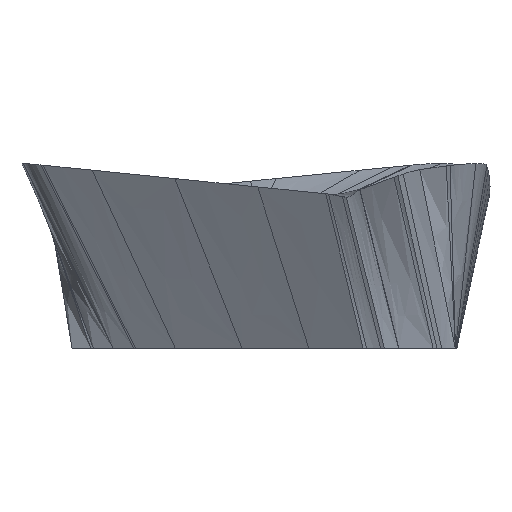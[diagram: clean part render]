
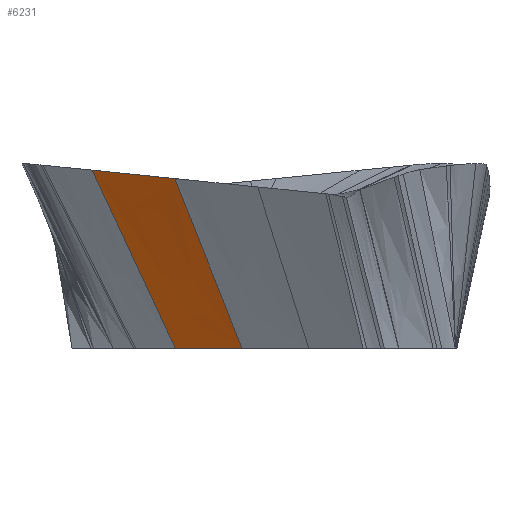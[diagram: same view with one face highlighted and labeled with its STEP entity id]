
A CAD part, left-side view. The second image highlights one B-rep face of the part: STEP entity #6231.
In plain terms, the highlighted free-form (B-spline) face has degree [5, 5] with [6, 12] control points.
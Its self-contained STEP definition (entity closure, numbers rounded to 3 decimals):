
#3836=CARTESIAN_POINT('Vertex',(-1.581,4.729,3.81)) ;
#3928=CARTESIAN_POINT('Control Point',(-2.633,2.966,3.631)) ;
#3929=CARTESIAN_POINT('Control Point',(-2.571,3.072,3.642)) ;
#3930=CARTESIAN_POINT('Control Point',(-2.508,3.177,3.653)) ;
#3931=CARTESIAN_POINT('Control Point',(-2.445,3.284,3.664)) ;
#3932=CARTESIAN_POINT('Control Point',(-2.311,3.51,3.686)) ;
#3933=CARTESIAN_POINT('Control Point',(-2.178,3.734,3.709)) ;
#3934=CARTESIAN_POINT('Control Point',(-2.041,3.964,3.733)) ;
#3935=CARTESIAN_POINT('Control Point',(-1.905,4.19,3.756)) ;
#3936=CARTESIAN_POINT('Control Point',(-1.771,4.414,3.778)) ;
#3937=CARTESIAN_POINT('Control Point',(-1.709,4.517,3.789)) ;
#3938=CARTESIAN_POINT('Control Point',(-1.645,4.623,3.8)) ;
#3939=CARTESIAN_POINT('Control Point',(-1.581,4.729,3.81)) ;
#3940=CARTESIAN_POINT('Vertex',(-2.633,2.966,3.631)) ;
#6105=CARTESIAN_POINT('Control Point',(-1.581,4.729,3.81)) ;
#6106=CARTESIAN_POINT('Control Point',(-1.627,4.374,3.048)) ;
#6107=CARTESIAN_POINT('Control Point',(-1.673,4.018,2.286)) ;
#6108=CARTESIAN_POINT('Control Point',(-1.719,3.662,1.524)) ;
#6109=CARTESIAN_POINT('Control Point',(-1.764,3.306,0.762)) ;
#6110=CARTESIAN_POINT('Control Point',(-1.81,2.951,0.)) ;
#6111=CARTESIAN_POINT('Vertex',(-1.81,2.951,0.)) ;
#6129=CARTESIAN_POINT('Control Point',(-2.633,2.966,3.631)) ;
#6130=CARTESIAN_POINT('Control Point',(-2.571,3.072,3.642)) ;
#6131=CARTESIAN_POINT('Control Point',(-2.508,3.177,3.653)) ;
#6132=CARTESIAN_POINT('Control Point',(-2.445,3.284,3.664)) ;
#6133=CARTESIAN_POINT('Control Point',(-2.311,3.51,3.686)) ;
#6134=CARTESIAN_POINT('Control Point',(-2.178,3.734,3.709)) ;
#6135=CARTESIAN_POINT('Control Point',(-2.041,3.964,3.733)) ;
#6136=CARTESIAN_POINT('Control Point',(-1.905,4.19,3.756)) ;
#6137=CARTESIAN_POINT('Control Point',(-1.771,4.414,3.778)) ;
#6138=CARTESIAN_POINT('Control Point',(-1.709,4.517,3.789)) ;
#6139=CARTESIAN_POINT('Control Point',(-1.645,4.623,3.8)) ;
#6140=CARTESIAN_POINT('Control Point',(-1.581,4.729,3.81)) ;
#6141=CARTESIAN_POINT('Control Point',(-2.635,2.677,2.905)) ;
#6142=CARTESIAN_POINT('Control Point',(-2.574,2.78,2.914)) ;
#6143=CARTESIAN_POINT('Control Point',(-2.514,2.883,2.922)) ;
#6144=CARTESIAN_POINT('Control Point',(-2.453,2.987,2.931)) ;
#6145=CARTESIAN_POINT('Control Point',(-2.323,3.206,2.949)) ;
#6146=CARTESIAN_POINT('Control Point',(-2.194,3.424,2.967)) ;
#6147=CARTESIAN_POINT('Control Point',(-2.072,3.628,2.986)) ;
#6148=CARTESIAN_POINT('Control Point',(-1.941,3.848,3.004)) ;
#6149=CARTESIAN_POINT('Control Point',(-1.811,4.066,3.023)) ;
#6150=CARTESIAN_POINT('Control Point',(-1.751,4.167,3.031)) ;
#6151=CARTESIAN_POINT('Control Point',(-1.689,4.27,3.04)) ;
#6152=CARTESIAN_POINT('Control Point',(-1.627,4.374,3.048)) ;
#6153=CARTESIAN_POINT('Control Point',(-2.637,2.389,2.179)) ;
#6154=CARTESIAN_POINT('Control Point',(-2.578,2.489,2.185)) ;
#6155=CARTESIAN_POINT('Control Point',(-2.519,2.589,2.192)) ;
#6156=CARTESIAN_POINT('Control Point',(-2.46,2.689,2.198)) ;
#6157=CARTESIAN_POINT('Control Point',(-2.335,2.902,2.212)) ;
#6158=CARTESIAN_POINT('Control Point',(-2.21,3.114,2.226)) ;
#6159=CARTESIAN_POINT('Control Point',(-2.104,3.293,2.24)) ;
#6160=CARTESIAN_POINT('Control Point',(-1.977,3.506,2.253)) ;
#6161=CARTESIAN_POINT('Control Point',(-1.851,3.719,2.267)) ;
#6162=CARTESIAN_POINT('Control Point',(-1.792,3.817,2.273)) ;
#6163=CARTESIAN_POINT('Control Point',(-1.733,3.917,2.28)) ;
#6164=CARTESIAN_POINT('Control Point',(-1.673,4.018,2.286)) ;
#6165=CARTESIAN_POINT('Control Point',(-2.638,2.101,1.452)) ;
#6166=CARTESIAN_POINT('Control Point',(-2.582,2.198,1.457)) ;
#6167=CARTESIAN_POINT('Control Point',(-2.525,2.295,1.461)) ;
#6168=CARTESIAN_POINT('Control Point',(-2.468,2.392,1.466)) ;
#6169=CARTESIAN_POINT('Control Point',(-2.347,2.598,1.475)) ;
#6170=CARTESIAN_POINT('Control Point',(-2.226,2.804,1.484)) ;
#6171=CARTESIAN_POINT('Control Point',(-2.135,2.957,1.493)) ;
#6172=CARTESIAN_POINT('Control Point',(-2.013,3.164,1.502)) ;
#6173=CARTESIAN_POINT('Control Point',(-1.891,3.371,1.511)) ;
#6174=CARTESIAN_POINT('Control Point',(-1.834,3.467,1.515)) ;
#6175=CARTESIAN_POINT('Control Point',(-1.776,3.564,1.52)) ;
#6176=CARTESIAN_POINT('Control Point',(-1.719,3.662,1.524)) ;
#6177=CARTESIAN_POINT('Control Point',(-2.64,1.813,0.726)) ;
#6178=CARTESIAN_POINT('Control Point',(-2.585,1.907,0.728)) ;
#6179=CARTESIAN_POINT('Control Point',(-2.53,2.001,0.731)) ;
#6180=CARTESIAN_POINT('Control Point',(-2.475,2.095,0.733)) ;
#6181=CARTESIAN_POINT('Control Point',(-2.358,2.294,0.737)) ;
#6182=CARTESIAN_POINT('Control Point',(-2.242,2.494,0.742)) ;
#6183=CARTESIAN_POINT('Control Point',(-2.166,2.622,0.747)) ;
#6184=CARTESIAN_POINT('Control Point',(-2.049,2.822,0.751)) ;
#6185=CARTESIAN_POINT('Control Point',(-1.931,3.023,0.756)) ;
#6186=CARTESIAN_POINT('Control Point',(-1.876,3.117,0.758)) ;
#6187=CARTESIAN_POINT('Control Point',(-1.82,3.211,0.76)) ;
#6188=CARTESIAN_POINT('Control Point',(-1.764,3.306,0.762)) ;
#6189=CARTESIAN_POINT('Control Point',(-2.642,1.525,0.)) ;
#6190=CARTESIAN_POINT('Control Point',(-2.589,1.615,0.)) ;
#6191=CARTESIAN_POINT('Control Point',(-2.536,1.706,0.)) ;
#6192=CARTESIAN_POINT('Control Point',(-2.483,1.797,0.)) ;
#6193=CARTESIAN_POINT('Control Point',(-2.37,1.99,0.)) ;
#6194=CARTESIAN_POINT('Control Point',(-2.258,2.184,0.)) ;
#6195=CARTESIAN_POINT('Control Point',(-2.198,2.286,0.)) ;
#6196=CARTESIAN_POINT('Control Point',(-2.085,2.48,0.)) ;
#6197=CARTESIAN_POINT('Control Point',(-1.971,2.675,0.)) ;
#6198=CARTESIAN_POINT('Control Point',(-1.918,2.767,0.)) ;
#6199=CARTESIAN_POINT('Control Point',(-1.864,2.859,0.)) ;
#6200=CARTESIAN_POINT('Control Point',(-1.81,2.951,0.)) ;
#6202=CARTESIAN_POINT('Control Point',(-2.633,2.966,3.631)) ;
#6203=CARTESIAN_POINT('Control Point',(-2.635,2.677,2.905)) ;
#6204=CARTESIAN_POINT('Control Point',(-2.637,2.389,2.179)) ;
#6205=CARTESIAN_POINT('Control Point',(-2.638,2.101,1.452)) ;
#6206=CARTESIAN_POINT('Control Point',(-2.64,1.813,0.726)) ;
#6207=CARTESIAN_POINT('Control Point',(-2.642,1.525,0.)) ;
#6208=CARTESIAN_POINT('Vertex',(-2.642,1.525,0.)) ;
#6212=CARTESIAN_POINT('Control Point',(-2.642,1.525,0.)) ;
#6213=CARTESIAN_POINT('Control Point',(-2.589,1.615,0.)) ;
#6214=CARTESIAN_POINT('Control Point',(-2.536,1.706,0.)) ;
#6215=CARTESIAN_POINT('Control Point',(-2.483,1.797,0.)) ;
#6216=CARTESIAN_POINT('Control Point',(-2.37,1.99,0.)) ;
#6217=CARTESIAN_POINT('Control Point',(-2.258,2.184,0.)) ;
#6218=CARTESIAN_POINT('Control Point',(-2.198,2.286,0.)) ;
#6219=CARTESIAN_POINT('Control Point',(-2.085,2.48,0.)) ;
#6220=CARTESIAN_POINT('Control Point',(-1.971,2.675,0.)) ;
#6221=CARTESIAN_POINT('Control Point',(-1.918,2.767,0.)) ;
#6222=CARTESIAN_POINT('Control Point',(-1.864,2.859,0.)) ;
#6223=CARTESIAN_POINT('Control Point',(-1.81,2.951,0.)) ;
#6226=ORIENTED_EDGE('',*,*,#6210,.F.) ;
#6227=ORIENTED_EDGE('',*,*,#3942,.T.) ;
#6228=ORIENTED_EDGE('',*,*,#6113,.T.) ;
#6229=ORIENTED_EDGE('',*,*,#6224,.T.) ;
#6231=ADVANCED_FACE('CUT',(#6230),#6128,.F.) ;
#3927=B_SPLINE_CURVE_WITH_KNOTS('',5,(#3928,#3929,#3930,#3931,#3932,#3933,#3934,#3935,#3936,#3937,#3938,#3939),.UNSPECIFIED.,.F.,.U.,(6,3,3,6),(0.,0.873,1.855,2.739),.UNSPECIFIED.) ;
#6104=B_SPLINE_CURVE_WITH_KNOTS('',5,(#6105,#6106,#6107,#6108,#6109,#6110),.UNSPECIFIED.,.F.,.U.,(6,6),(0.,3.904),.UNSPECIFIED.) ;
#6201=B_SPLINE_CURVE_WITH_KNOTS('',5,(#6202,#6203,#6204,#6205,#6206,#6207),.UNSPECIFIED.,.F.,.U.,(6,6),(0.,3.904),.UNSPECIFIED.) ;
#6211=B_SPLINE_CURVE_WITH_KNOTS('',5,(#6212,#6213,#6214,#6215,#6216,#6217,#6218,#6219,#6220,#6221,#6222,#6223),.UNSPECIFIED.,.F.,.U.,(6,3,3,6),(0.,0.873,1.855,2.739),.UNSPECIFIED.) ;
#6128=B_SPLINE_SURFACE_WITH_KNOTS('',5,5,((#6129,#6130,#6131,#6132,#6133,#6134,#6135,#6136,#6137,#6138,#6139,#6140),(#6141,#6142,#6143,#6144,#6145,#6146,#6147,#6148,#6149,#6150,#6151,#6152),(#6153,#6154,#6155,#6156,#6157,#6158,#6159,#6160,#6161,#6162,#6163,#6164),(#6165,#6166,#6167,#6168,#6169,#6170,#6171,#6172,#6173,#6174,#6175,#6176),(#6177,#6178,#6179,#6180,#6181,#6182,#6183,#6184,#6185,#6186,#6187,#6188),(#6189,#6190,#6191,#6192,#6193,#6194,#6195,#6196,#6197,#6198,#6199,#6200)),.UNSPECIFIED.,.F.,.F.,.U.,(6,6),(6,3,3,6),(0.,3.904),(0.,0.873,1.855,2.739),.UNSPECIFIED.) ;
#3942=EDGE_CURVE('',#3941,#3837,#3927,.T.) ;
#6113=EDGE_CURVE('',#3837,#6112,#6104,.T.) ;
#6210=EDGE_CURVE('',#3941,#6209,#6201,.T.) ;
#6224=EDGE_CURVE('',#6112,#6209,#6211,.F.) ;
#6225=EDGE_LOOP('',(#6226,#6227,#6228,#6229)) ;
#6230=FACE_OUTER_BOUND('',#6225,.T.) ;
#3837=VERTEX_POINT('',#3836) ;
#3941=VERTEX_POINT('',#3940) ;
#6112=VERTEX_POINT('',#6111) ;
#6209=VERTEX_POINT('',#6208) ;
